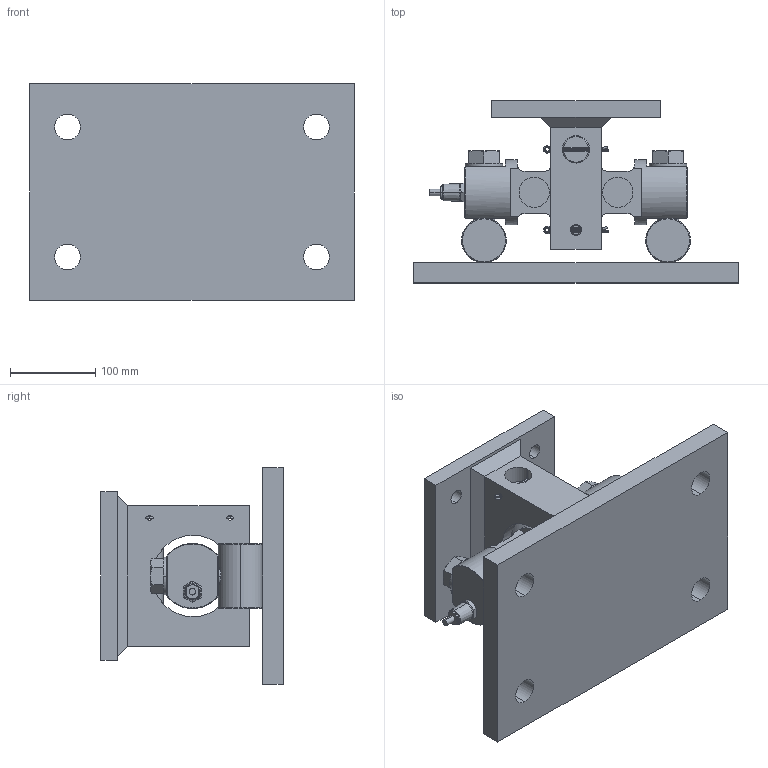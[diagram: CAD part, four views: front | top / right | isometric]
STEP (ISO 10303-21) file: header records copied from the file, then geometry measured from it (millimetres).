
FILE_DESCRIPTION (( 'STEP AP203' ), '1' );
FILE_NAME ('102DSM3-(30-75)Klb.STEP', '2025-07-18T05:51:51', ( '' ), ( '' ), 'SwSTEP 2.0', 'SolidWorks 2024', '' );
FILE_SCHEMA (( 'CONFIG_CONTROL_DESIGN' ));
Length unit declared in the file: millimetre
Products named in the file (1): 102DSM3-(30-75)Klb
Bounding box: 381 x 213.6 x 254 mm (x, y, z)
Volume: 5370031.9 mm3; surface area: 539845.1 mm2
Topology: 9 solids, 9 shells, 276 faces, 652 edges, 408 vertices
Faces by surface type: plane 119, cylinder 93, cone 52, bspline 8, torus 4
Entity records: 10845 total; most frequent: CARTESIAN_POINT 4407, DIRECTION 1336, ORIENTED_EDGE 1304, EDGE_CURVE 652, AXIS2_PLACEMENT_3D 531, VERTEX_POINT 408, EDGE_LOOP 324, ADVANCED_FACE 276
